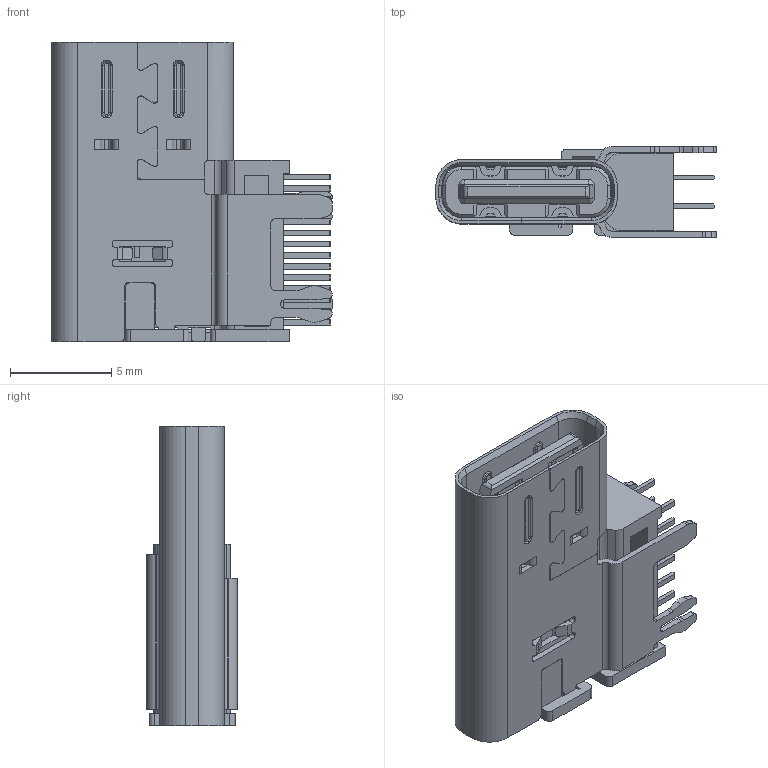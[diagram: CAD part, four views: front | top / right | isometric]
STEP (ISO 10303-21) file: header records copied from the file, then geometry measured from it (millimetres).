
FILE_DESCRIPTION (( 'STEP AP214' ), '1' );
FILE_NAME ('U5432-14PNY2.76G1.5D14.75L.STEP', '2026-07-23T08:57:32', ( '' ), ( '' ), 'SwSTEP 2.0', 'SolidWorks 2024', '' );
FILE_SCHEMA (( 'AUTOMOTIVE_DESIGN' ));
Length unit declared in the file: millimetre
Products named in the file (1): U5432-14PNY2.76G1.5D14.75L
Bounding box: 13.81 x 4.46 x 14.75 mm (x, y, z)
Volume: 398.1 mm3; surface area: 1212.4 mm2
Topology: 1 solids, 6 shells, 935 faces, 2633 edges, 1730 vertices
Faces by surface type: plane 611, cylinder 251, bspline 57, cone 16
Entity records: 32309 total; most frequent: CARTESIAN_POINT 8015, ORIENTED_EDGE 5266, DIRECTION 4823, EDGE_CURVE 2633, VECTOR 1925, LINE 1925, VERTEX_POINT 1730, AXIS2_PLACEMENT_3D 1449
